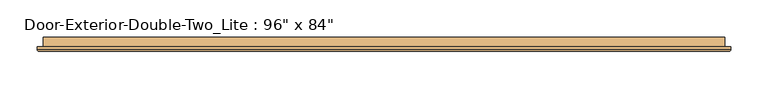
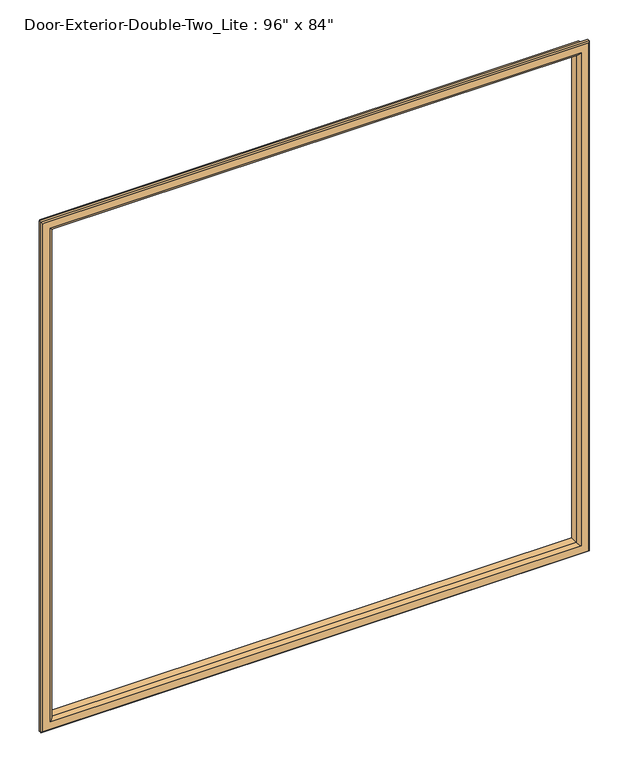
"""IFC4 building model written with IfcOpenShell, lengths in millimetres: door geometry."""

from ifc_helpers import new_model, si_unit, frame, origin, place, context, project, spatial, ellipse_curve, source, transform, mapped, element, save
from ifc_brep_helpers import plane_surface, cylinder_surface, advanced_brep


def door_a5944cd0(model_context):
    return source(origin(), model_context, "Body", "AdvancedBrep", [
        advanced_brep(
        [(-1066.8, 104.775, 1117.6), (-1066.8, 92.075, 1117.6), (-1066.8, 92.075, 2016.125), (-1066.8, 104.775, 2016.125), (-1054.8, 91.075, 1129.6), (-1054.8, 104.775, 1129.6), (-1054.8, 104.775, 2004.125), (-1054.8, 91.075, 2004.125), (-1059.8, 86.075, 1124.6), (-1059.8, 86.075, 2009.125), (-1074.8, 88.075, 1109.6), (-1072.8, 86.075, 1111.6), (-1072.8, 86.075, 2022.125), (-1074.8, 88.075, 2024.125), (-1074.8, 92.075, 1109.6), (-1074.8, 92.075, 2024.125), (-152.4, 92.075, 2016.125), (-152.4, 104.775, 2016.125), (-164.4, 104.775, 2004.125), (-164.4, 91.075, 2004.125), (-159.4, 86.075, 2009.125), (-146.4, 86.075, 2022.125), (-144.4, 88.075, 2024.125), (-144.4, 92.075, 2024.125), (-152.4, 92.075, 1117.6), (-152.4, 104.775, 1117.6), (-164.4, 104.775, 1129.6), (-164.4, 91.075, 1129.6), (-159.4, 86.075, 1124.6), (-146.4, 86.075, 1111.6), (-144.4, 88.075, 1109.6), (-144.4, 92.075, 1109.6)],
        [
            (0, 1),
            (1, 2),
            (2, 3),
            (3, 0),
            (4, 5),
            (5, 6),
            (6, 7),
            (7, 4),
            (8, 4, ellipse_curve(frame((-1059.8, 91.075, 1124.6), z_axis=(-0.7071067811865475, 0.0, 0.7071067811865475), x_axis=(-0.7071067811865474, 0.0, -0.7071067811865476)), 7.0710678, 5.0)),
            (7, 9, ellipse_curve(frame((-1059.8, 91.075, 2009.125), z_axis=(-0.7071067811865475, 0.0, -0.7071067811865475), x_axis=(0.7071067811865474, 0.0, -0.7071067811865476)), 7.0710678, 5.0)),
            (9, 8),
            (10, 11, ellipse_curve(frame((-1072.8, 88.075, 1111.6), z_axis=(-0.7071067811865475, 0.0, 0.7071067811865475), x_axis=(-0.7071067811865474, 0.0, -0.7071067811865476)), 2.8284271, 2.0)),
            (11, 12),
            (12, 13, ellipse_curve(frame((-1072.8, 88.075, 2022.125), z_axis=(-0.7071067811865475, 0.0, -0.7071067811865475), x_axis=(0.7071067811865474, 0.0, -0.7071067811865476)), 2.8284271, 2.0)),
            (13, 10),
            (14, 10),
            (13, 15),
            (15, 14),
            (2, 16),
            (16, 17),
            (17, 3),
            (6, 18),
            (18, 19),
            (19, 7),
            (19, 20, ellipse_curve(frame((-159.4, 91.075, 2009.125), z_axis=(-0.7071067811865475, 0.0, 0.7071067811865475), x_axis=(-0.7071067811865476, 0.0, -0.7071067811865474)), 7.0710678, 5.0)),
            (20, 9),
            (12, 21),
            (21, 22, ellipse_curve(frame((-146.4, 88.075, 2022.125), z_axis=(-0.7071067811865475, 0.0, 0.7071067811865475), x_axis=(-0.7071067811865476, 0.0, -0.7071067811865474)), 2.8284271, 2.0)),
            (22, 13),
            (22, 23),
            (23, 15),
            (16, 24),
            (24, 25),
            (25, 17),
            (18, 26),
            (26, 27),
            (27, 19),
            (27, 28, ellipse_curve(frame((-159.4, 91.075, 1124.6), z_axis=(0.7071067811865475, 0.0, 0.7071067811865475), x_axis=(-0.7071067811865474, 0.0, 0.7071067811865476)), 7.0710678, 5.0)),
            (28, 20),
            (21, 29),
            (29, 30, ellipse_curve(frame((-146.4, 88.075, 1111.6), z_axis=(0.7071067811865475, 0.0, 0.7071067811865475), x_axis=(-0.7071067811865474, 0.0, 0.7071067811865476)), 2.8284271, 2.0)),
            (30, 22),
            (30, 31),
            (31, 23),
            (31, 14),
            (1, 24),
            (0, 25),
            (5, 26),
            (4, 27),
            (8, 28),
            (11, 29),
            (10, 30),
        ],
        [
            plane_surface(frame((-1066.8, 92.075, 1117.6), z_axis=(-1.0, 0.0, 0.0), x_axis=(0.0, 0.0, 1.0))),
            plane_surface(frame((-1054.8, 104.775, 1129.6), z_axis=(1.0, 0.0, 0.0), x_axis=(0.0, 0.0, 1.0))),
            cylinder_surface(frame((-1059.8, 91.075, 1117.6), z_axis=(0.0, 0.0, -1.0), x_axis=(-1.0, 0.0, 0.0)), 5.0),
            cylinder_surface(frame((-1072.8, 88.075, 1117.6), z_axis=(0.0, 0.0, -1.0), x_axis=(-1.0, 0.0, 0.0)), 2.0),
            plane_surface(frame((-1074.8, 88.075, 1109.6), z_axis=(-1.0, 0.0, 0.0), x_axis=(0.0, 0.0, 1.0))),
            plane_surface(frame((-1066.8, 92.075, 2016.125), z_axis=(0.0, 0.0, 1.0), x_axis=(1.0, 0.0, 0.0))),
            plane_surface(frame((-1054.8, 104.775, 2004.125), z_axis=(0.0, 0.0, -1.0), x_axis=(1.0, 0.0, 0.0))),
            cylinder_surface(frame((-1066.8, 91.075, 2009.125), z_axis=(-1.0, 0.0, 0.0), x_axis=(0.0, 0.0, 1.0)), 5.0),
            cylinder_surface(frame((-1066.8, 88.075, 2022.125), z_axis=(-1.0, 0.0, 0.0), x_axis=(0.0, 0.0, 1.0)), 2.0),
            plane_surface(frame((-1074.8, 88.075, 2024.125), z_axis=(0.0, 0.0, 1.0), x_axis=(1.0, 0.0, 0.0))),
            plane_surface(frame((-152.4, 92.075, 2016.125), z_axis=(1.0, 0.0, 0.0), x_axis=(0.0, 0.0, -1.0))),
            plane_surface(frame((-164.4, 104.775, 2004.125), z_axis=(-1.0, 0.0, 0.0), x_axis=(0.0, 0.0, -1.0))),
            cylinder_surface(frame((-159.4, 91.075, 2016.125), z_axis=(0.0, 0.0, 1.0), x_axis=(1.0, 0.0, 0.0)), 5.0),
            cylinder_surface(frame((-146.4, 88.075, 2016.125), z_axis=(0.0, 0.0, 1.0), x_axis=(1.0, 0.0, 0.0)), 2.0),
            plane_surface(frame((-144.4, 88.075, 2024.125), z_axis=(1.0, 0.0, 0.0), x_axis=(0.0, 0.0, -1.0))),
            plane_surface(frame((-144.4, 92.075, 1109.6), z_axis=(0.0, 1.0, 0.0), x_axis=(-1.0, 0.0, 0.0))),
            plane_surface(frame((-152.4, 92.075, 1117.6), z_axis=(0.0, 0.0, -1.0), x_axis=(-1.0, 0.0, 0.0))),
            plane_surface(frame((-152.4, 104.775, 1117.6), z_axis=(0.0, 1.0, 0.0), x_axis=(-1.0, 0.0, 0.0))),
            plane_surface(frame((-164.4, 104.775, 1129.6), z_axis=(0.0, 0.0, 1.0), x_axis=(-1.0, 0.0, 0.0))),
            cylinder_surface(frame((-152.4, 91.075, 1124.6), z_axis=(1.0, 0.0, 0.0), x_axis=(0.0, 0.0, -1.0)), 5.0),
            plane_surface(frame((-159.4, 86.075, 1124.6), z_axis=(0.0, -1.0, 0.0), x_axis=(-1.0, 0.0, 0.0))),
            cylinder_surface(frame((-152.4, 88.075, 1111.6), z_axis=(1.0, 0.0, 0.0), x_axis=(0.0, 0.0, -1.0)), 2.0),
            plane_surface(frame((-144.4, 88.075, 1109.6), z_axis=(0.0, 0.0, -1.0), x_axis=(-1.0, 0.0, 0.0))),
        ],
        [
            (0, [[1, 2, 3, 4]]),
            (1, [[5, 6, 7, 8]]),
            (2, [[9, -8, 10, 11]]),
            (3, [[12, 13, 14, 15]]),
            (4, [[16, -15, 17, 18]]),
            (5, [[-3, 19, 20, 21]]),
            (6, [[-7, 22, 23, 24]]),
            (7, [[-10, -24, 25, 26]]),
            (8, [[-14, 27, 28, 29]]),
            (9, [[-17, -29, 30, 31]]),
            (10, [[-20, 32, 33, 34]]),
            (11, [[-23, 35, 36, 37]]),
            (12, [[-25, -37, 38, 39]]),
            (13, [[-28, 40, 41, 42]]),
            (14, [[-30, -42, 43, 44]]),
            (15, [[-31, -44, 45, -18], [46, -32, -19, -2]]),
            (16, [[-33, -46, -1, 47]]),
            (17, [[-21, -34, -47, -4], [48, -35, -22, -6]]),
            (18, [[-36, -48, -5, 49]]),
            (19, [[-38, -49, -9, 50]]),
            (20, [[51, -40, -27, -13], [-26, -39, -50, -11]]),
            (21, [[-41, -51, -12, 52]]),
            (22, [[-43, -52, -16, -45]]),
        ],
    ),
    ])


if __name__ == "__main__":
    model = new_model("IFC4")
    model_context = context("Model", 3, world=origin())
    ifc_project = project(units=[si_unit("LENGTHUNIT", "METRE", prefix="MILLI")], contexts=[model_context])
    site = spatial("IfcSite", under=ifc_project)
    building = spatial("IfcBuilding", under=site)
    placement = place(None, origin())
    door_shape = door_a5944cd0(model_context)
    element("IfcDoor", 1, ObjectType="Door-Exterior-Double-Two_Lite : 96\" x 84\"", at=placement, inside=building, context=model_context, shape_type="MappedRepresentation", body=[
        mapped(door_shape, transform((0.0, 0.0, 0.0), x_axis=(1.0, 0.0, 0.0), y_axis=(0.0, 1.0, 0.0), z_axis=(0.0, 0.0, 1.0))),
    ])
    save(model, "model.ifc")
